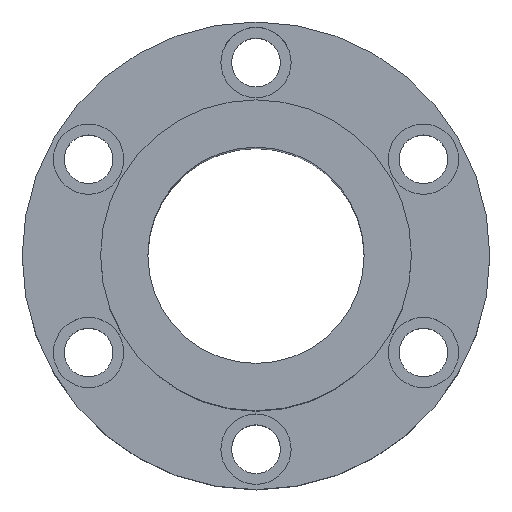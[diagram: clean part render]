
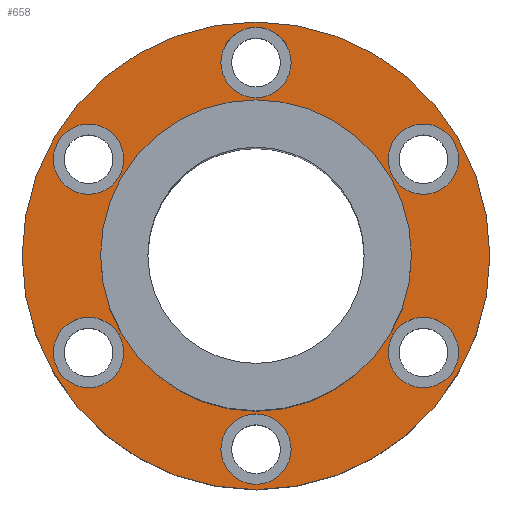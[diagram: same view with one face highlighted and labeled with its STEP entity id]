
A CAD part, top view. The second image highlights one B-rep face of the part: STEP entity #658.
In plain terms, the highlighted planar face has unit normal (0, 0, 1).
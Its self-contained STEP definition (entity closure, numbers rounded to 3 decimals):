
#1=CARTESIAN_POINT('',(0.,0.,32.5));
#2=DIRECTION('',(0.,0.,1.));
#3=DIRECTION('',(1.,0.,0.));
#4=AXIS2_PLACEMENT_3D('',#1,#2,#3);
#6=CARTESIAN_POINT('',(0.,0.,32.5));
#7=DIRECTION('',(0.,0.,1.));
#8=DIRECTION('',(-1.,0.,0.));
#9=AXIS2_PLACEMENT_3D('',#6,#7,#8);
#11=CARTESIAN_POINT('',(61.921,-35.75,32.5));
#12=DIRECTION('',(0.,0.,-1.));
#13=DIRECTION('',(-0.5,-0.866,0.));
#14=AXIS2_PLACEMENT_3D('',#11,#12,#13);
#16=CARTESIAN_POINT('',(61.921,-35.75,32.5));
#17=DIRECTION('',(0.,0.,-1.));
#18=DIRECTION('',(0.5,0.866,0.));
#19=AXIS2_PLACEMENT_3D('',#16,#17,#18);
#21=CARTESIAN_POINT('',(-61.921,-35.75,32.5));
#22=DIRECTION('',(0.,0.,-1.));
#23=DIRECTION('',(-0.5,0.866,0.));
#24=AXIS2_PLACEMENT_3D('',#21,#22,#23);
#26=CARTESIAN_POINT('',(-61.921,-35.75,32.5));
#27=DIRECTION('',(0.,0.,-1.));
#28=DIRECTION('',(0.5,-0.866,0.));
#29=AXIS2_PLACEMENT_3D('',#26,#27,#28);
#31=CARTESIAN_POINT('',(0.,71.5,32.5));
#32=DIRECTION('',(0.,0.,-1.));
#33=DIRECTION('',(1.,0.,0.));
#34=AXIS2_PLACEMENT_3D('',#31,#32,#33);
#36=CARTESIAN_POINT('',(0.,71.5,32.5));
#37=DIRECTION('',(0.,0.,-1.));
#38=DIRECTION('',(-1.,0.,0.));
#39=AXIS2_PLACEMENT_3D('',#36,#37,#38);
#41=CARTESIAN_POINT('',(0.,0.,32.5));
#42=DIRECTION('',(0.,0.,-1.));
#43=DIRECTION('',(1.,0.,0.));
#44=AXIS2_PLACEMENT_3D('',#41,#42,#43);
#46=CARTESIAN_POINT('',(0.,0.,32.5));
#47=DIRECTION('',(0.,0.,-1.));
#48=DIRECTION('',(-1.,0.,0.));
#49=AXIS2_PLACEMENT_3D('',#46,#47,#48);
#51=CARTESIAN_POINT('',(-61.921,35.75,32.5));
#52=DIRECTION('',(0.,0.,-1.));
#53=DIRECTION('',(0.5,0.866,0.));
#54=AXIS2_PLACEMENT_3D('',#51,#52,#53);
#56=CARTESIAN_POINT('',(-61.921,35.75,32.5));
#57=DIRECTION('',(0.,0.,-1.));
#58=DIRECTION('',(-0.5,-0.866,0.));
#59=AXIS2_PLACEMENT_3D('',#56,#57,#58);
#61=CARTESIAN_POINT('',(0.,-71.5,32.5));
#62=DIRECTION('',(0.,0.,-1.));
#63=DIRECTION('',(-1.,0.,0.));
#64=AXIS2_PLACEMENT_3D('',#61,#62,#63);
#66=CARTESIAN_POINT('',(0.,-71.5,32.5));
#67=DIRECTION('',(0.,0.,-1.));
#68=DIRECTION('',(1.,0.,0.));
#69=AXIS2_PLACEMENT_3D('',#66,#67,#68);
#71=CARTESIAN_POINT('',(61.921,35.75,32.5));
#72=DIRECTION('',(0.,0.,-1.));
#73=DIRECTION('',(0.5,-0.866,0.));
#74=AXIS2_PLACEMENT_3D('',#71,#72,#73);
#76=CARTESIAN_POINT('',(61.921,35.75,32.5));
#77=DIRECTION('',(0.,0.,-1.));
#78=DIRECTION('',(-0.5,0.866,0.));
#79=AXIS2_PLACEMENT_3D('',#76,#77,#78);
#533=CARTESIAN_POINT('',(-86.5,0.,32.5));
#535=VERTEX_POINT('',#533);
#537=CARTESIAN_POINT('',(86.5,0.,32.5));
#539=VERTEX_POINT('',#537);
#541=CARTESIAN_POINT('',(13.,71.5,32.5));
#543=VERTEX_POINT('',#541);
#545=CARTESIAN_POINT('',(-13.,71.5,32.5));
#547=VERTEX_POINT('',#545);
#549=CARTESIAN_POINT('',(-55.421,47.008,32.5));
#551=VERTEX_POINT('',#549);
#553=CARTESIAN_POINT('',(-68.421,24.492,32.5));
#555=VERTEX_POINT('',#553);
#557=CARTESIAN_POINT('',(-68.421,-24.492,32.5));
#559=VERTEX_POINT('',#557);
#561=CARTESIAN_POINT('',(-55.421,-47.008,32.5));
#563=VERTEX_POINT('',#561);
#565=CARTESIAN_POINT('',(-13.,-71.5,32.5));
#567=VERTEX_POINT('',#565);
#569=CARTESIAN_POINT('',(13.,-71.5,32.5));
#571=VERTEX_POINT('',#569);
#573=CARTESIAN_POINT('',(55.421,-47.008,32.5));
#575=VERTEX_POINT('',#573);
#577=CARTESIAN_POINT('',(68.421,-24.492,32.5));
#579=VERTEX_POINT('',#577);
#581=CARTESIAN_POINT('',(68.421,24.492,32.5));
#583=VERTEX_POINT('',#581);
#585=CARTESIAN_POINT('',(55.421,47.008,32.5));
#587=VERTEX_POINT('',#585);
#598=CARTESIAN_POINT('',(57.5,0.,32.5));
#600=VERTEX_POINT('',#598);
#602=CARTESIAN_POINT('',(-57.5,0.,32.5));
#604=VERTEX_POINT('',#602);
#605=CARTESIAN_POINT('',(0.,0.,32.5));
#606=DIRECTION('',(0.,0.,1.));
#607=DIRECTION('',(1.,0.,0.));
#608=AXIS2_PLACEMENT_3D('',#605,#606,#607);
#609=PLANE('',#608);
#611=ORIENTED_EDGE('',*,*,#610,.F.);
#613=ORIENTED_EDGE('',*,*,#612,.F.);
#614=EDGE_LOOP('',(#611,#613));
#615=FACE_OUTER_BOUND('',#614,.F.);
#617=ORIENTED_EDGE('',*,*,#616,.F.);
#619=ORIENTED_EDGE('',*,*,#618,.F.);
#620=EDGE_LOOP('',(#617,#619));
#621=FACE_BOUND('',#620,.F.);
#623=ORIENTED_EDGE('',*,*,#622,.F.);
#625=ORIENTED_EDGE('',*,*,#624,.F.);
#626=EDGE_LOOP('',(#623,#625));
#627=FACE_BOUND('',#626,.F.);
#629=ORIENTED_EDGE('',*,*,#628,.F.);
#631=ORIENTED_EDGE('',*,*,#630,.F.);
#632=EDGE_LOOP('',(#629,#631));
#633=FACE_BOUND('',#632,.F.);
#635=ORIENTED_EDGE('',*,*,#634,.F.);
#637=ORIENTED_EDGE('',*,*,#636,.F.);
#638=EDGE_LOOP('',(#635,#637));
#639=FACE_BOUND('',#638,.F.);
#641=ORIENTED_EDGE('',*,*,#640,.F.);
#643=ORIENTED_EDGE('',*,*,#642,.F.);
#644=EDGE_LOOP('',(#641,#643));
#645=FACE_BOUND('',#644,.F.);
#647=ORIENTED_EDGE('',*,*,#646,.F.);
#649=ORIENTED_EDGE('',*,*,#648,.F.);
#650=EDGE_LOOP('',(#647,#649));
#651=FACE_BOUND('',#650,.F.);
#653=ORIENTED_EDGE('',*,*,#652,.F.);
#655=ORIENTED_EDGE('',*,*,#654,.F.);
#656=EDGE_LOOP('',(#653,#655));
#657=FACE_BOUND('',#656,.F.);
#658=ADVANCED_FACE('',(#615,#621,#627,#633,#639,#645,#651,#657),#609,.T.);
#5=CIRCLE('',#4,86.5);
#10=CIRCLE('',#9,86.5);
#15=CIRCLE('',#14,13.);
#20=CIRCLE('',#19,13.);
#25=CIRCLE('',#24,13.);
#30=CIRCLE('',#29,13.);
#35=CIRCLE('',#34,13.);
#40=CIRCLE('',#39,13.);
#45=CIRCLE('',#44,57.5);
#50=CIRCLE('',#49,57.5);
#55=CIRCLE('',#54,13.);
#60=CIRCLE('',#59,13.);
#65=CIRCLE('',#64,13.);
#70=CIRCLE('',#69,13.);
#75=CIRCLE('',#74,13.);
#80=CIRCLE('',#79,13.);
#610=EDGE_CURVE('',#539,#535,#5,.T.);
#612=EDGE_CURVE('',#535,#539,#10,.T.);
#616=EDGE_CURVE('',#575,#579,#15,.T.);
#618=EDGE_CURVE('',#579,#575,#20,.T.);
#622=EDGE_CURVE('',#559,#563,#25,.T.);
#624=EDGE_CURVE('',#563,#559,#30,.T.);
#628=EDGE_CURVE('',#543,#547,#35,.T.);
#630=EDGE_CURVE('',#547,#543,#40,.T.);
#634=EDGE_CURVE('',#600,#604,#45,.T.);
#636=EDGE_CURVE('',#604,#600,#50,.T.);
#640=EDGE_CURVE('',#551,#555,#55,.T.);
#642=EDGE_CURVE('',#555,#551,#60,.T.);
#646=EDGE_CURVE('',#567,#571,#65,.T.);
#648=EDGE_CURVE('',#571,#567,#70,.T.);
#652=EDGE_CURVE('',#583,#587,#75,.T.);
#654=EDGE_CURVE('',#587,#583,#80,.T.);
